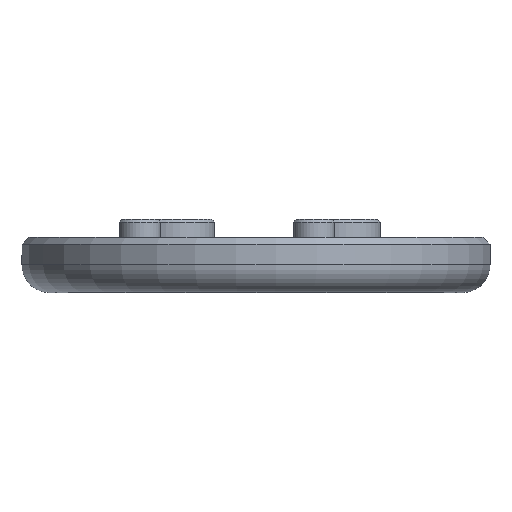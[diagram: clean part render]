
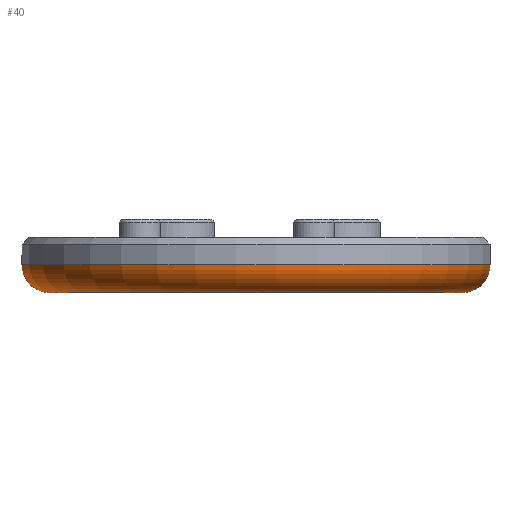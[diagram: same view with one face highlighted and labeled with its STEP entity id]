
A CAD part, left-side view. The second image highlights one B-rep face of the part: STEP entity #40.
In plain terms, the highlighted toroidal (fillet/blend) face has major radius 15 mm and minor radius 2 mm.
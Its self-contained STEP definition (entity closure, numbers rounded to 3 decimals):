
#1 = CARTESIAN_POINT ( 'NONE',  ( 6.302, -13.612, 2. ) ) ;
#23 = CIRCLE ( 'NONE', #794, 2. ) ;
#25 = VERTEX_POINT ( 'NONE', #1374 ) ;
#31 = CIRCLE ( 'NONE', #702, 17. ) ;
#40 = ADVANCED_FACE ( 'NONE', ( #1194 ), #287, .T. ) ;
#72 = EDGE_CURVE ( 'NONE', #25, #943, #23, .T. ) ;
#84 = VERTEX_POINT ( 'NONE', #970 ) ;
#110 = DIRECTION ( 'NONE',  ( 1., 0., 0. ) ) ;
#137 = DIRECTION ( 'NONE',  ( 0., 0., -1. ) ) ;
#156 = DIRECTION ( 'NONE',  ( 0.42, 0.907, 0. ) ) ;
#261 = CARTESIAN_POINT ( 'NONE',  ( 7.142, 15.427, 2. ) ) ;
#287 = TOROIDAL_SURFACE ( 'NONE', #664, 15., 2. ) ;
#366 = DIRECTION ( 'NONE',  ( 1., 0., 0. ) ) ;
#382 = CARTESIAN_POINT ( 'NONE',  ( 0., 0., 2. ) ) ;
#444 = CARTESIAN_POINT ( 'NONE',  ( 7.142, -15.427, 2. ) ) ;
#448 = DIRECTION ( 'NONE',  ( 0.42, -0.907, 0. ) ) ;
#493 = EDGE_LOOP ( 'NONE', ( #1442, #1093, #1407, #1012 ) ) ;
#507 = CIRCLE ( 'NONE', #675, 2. ) ;
#596 = DIRECTION ( 'NONE',  ( 1., 0., 0. ) ) ;
#664 = AXIS2_PLACEMENT_3D ( 'NONE', #382, #710, #596 ) ;
#675 = AXIS2_PLACEMENT_3D ( 'NONE', #1, #904, #448 ) ;
#693 = DIRECTION ( 'NONE',  ( 0., 0., 1. ) ) ;
#702 = AXIS2_PLACEMENT_3D ( 'NONE', #1145, #693, #110 ) ;
#710 = DIRECTION ( 'NONE',  ( 0., 0., 1. ) ) ;
#794 = AXIS2_PLACEMENT_3D ( 'NONE', #1423, #857, #156 ) ;
#857 = DIRECTION ( 'NONE',  ( 0.907, -0.42, 0. ) ) ;
#904 = DIRECTION ( 'NONE',  ( -0.907, -0.42, 0. ) ) ;
#943 = VERTEX_POINT ( 'NONE', #261 ) ;
#970 = CARTESIAN_POINT ( 'NONE',  ( 6.302, -13.612, 0. ) ) ;
#1012 = ORIENTED_EDGE ( 'NONE', *, *, #1019, .F. ) ;
#1019 = EDGE_CURVE ( 'NONE', #84, #25, #1285, .T. ) ;
#1093 = ORIENTED_EDGE ( 'NONE', *, *, #1193, .F. ) ;
#1145 = CARTESIAN_POINT ( 'NONE',  ( 0., 0., 2. ) ) ;
#1165 = AXIS2_PLACEMENT_3D ( 'NONE', #1170, #137, #366 ) ;
#1170 = CARTESIAN_POINT ( 'NONE',  ( 0., 0., 0. ) ) ;
#1174 = EDGE_CURVE ( 'NONE', #84, #1471, #507, .T. ) ;
#1193 = EDGE_CURVE ( 'NONE', #943, #1471, #31, .T. ) ;
#1194 = FACE_OUTER_BOUND ( 'NONE', #493, .T. ) ;
#1285 = CIRCLE ( 'NONE', #1165, 15. ) ;
#1374 = CARTESIAN_POINT ( 'NONE',  ( 6.302, 13.612, 0. ) ) ;
#1407 = ORIENTED_EDGE ( 'NONE', *, *, #72, .F. ) ;
#1423 = CARTESIAN_POINT ( 'NONE',  ( 6.302, 13.612, 2. ) ) ;
#1442 = ORIENTED_EDGE ( 'NONE', *, *, #1174, .T. ) ;
#1471 = VERTEX_POINT ( 'NONE', #444 ) ;
